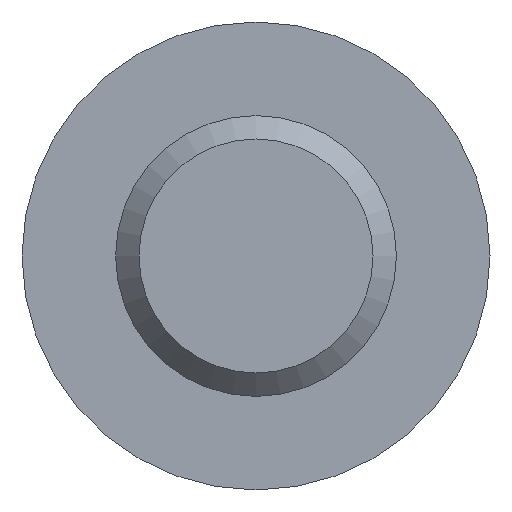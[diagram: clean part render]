
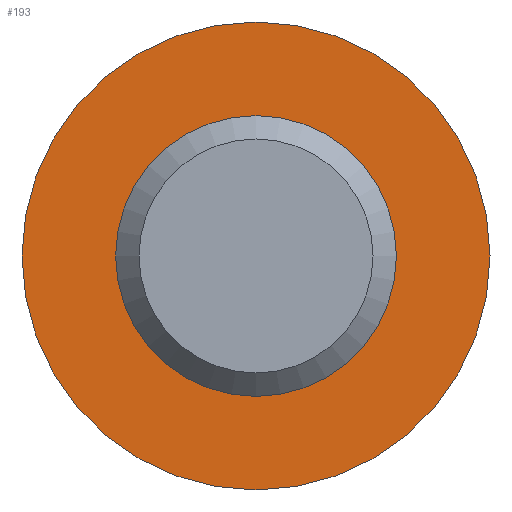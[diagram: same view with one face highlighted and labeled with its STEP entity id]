
A CAD part, front view. The second image highlights one B-rep face of the part: STEP entity #193.
In plain terms, the highlighted planar face has unit normal (0, -1, 0).
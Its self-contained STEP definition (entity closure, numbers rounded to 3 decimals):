
#149=CARTESIAN_POINT('',(47.061,31.155,3.));
#150=VERTEX_POINT('',#149);
#151=CARTESIAN_POINT('',(47.061,31.155,0.));
#152=DIRECTION('',(0.0,1.,0.0));
#153=DIRECTION('',(-0.581,0.0,0.814));
#154=AXIS2_PLACEMENT_3D('',#151,#152,#153);
#155=CIRCLE('',#154,3.);
#156=EDGE_CURVE('',#150,#150,#155,.T.);
#164=CARTESIAN_POINT('',(47.061,31.155,-5.5));
#165=DIRECTION('',(0.0,1.0,0.0));
#166=DIRECTION('',(0.0,0.0,1.0));
#167=AXIS2_PLACEMENT_3D('',#164,#165,#166);
#168=PLANE('',#167);
#169=CARTESIAN_POINT('',(47.061,31.155,5.0));
#170=VERTEX_POINT('',#169);
#171=CARTESIAN_POINT('',(47.061,31.155,5.0));
#172=DIRECTION('',(0.0,0.0,-1.0));
#173=VECTOR('',#172,2.);
#174=LINE('',#171,#173);
#175=EDGE_CURVE('',#170,#150,#174,.T.);
#176=ORIENTED_EDGE('',*,*,#175,.T.);
#177=ORIENTED_EDGE('',*,*,#156,.T.);
#178=CARTESIAN_POINT('',(47.061,31.155,5.0));
#179=DIRECTION('',(0.0,0.0,-1.0));
#180=VECTOR('',#179,2.);
#181=LINE('',#178,#180);
#182=EDGE_CURVE('',#170,#150,#181,.T.);
#183=ORIENTED_EDGE('',*,*,#182,.F.);
#184=CARTESIAN_POINT('',(47.061,31.155,0.0));
#185=DIRECTION('',(0.0,1.,0.0));
#186=DIRECTION('',(-0.581,0.0,0.814));
#187=AXIS2_PLACEMENT_3D('',#184,#185,#186);
#188=CIRCLE('',#187,5.0);
#189=EDGE_CURVE('',#170,#170,#188,.T.);
#190=ORIENTED_EDGE('',*,*,#189,.F.);
#191=EDGE_LOOP('',(#176,#177,#183,#190));
#192=FACE_OUTER_BOUND('',#191,.T.);
#193=ADVANCED_FACE('',(#192),#168,.F.);
